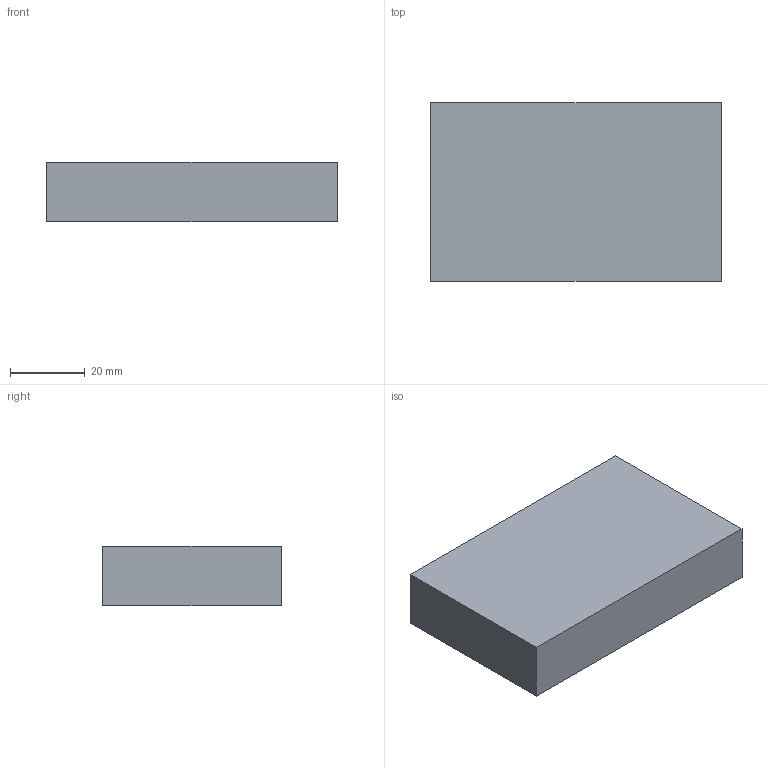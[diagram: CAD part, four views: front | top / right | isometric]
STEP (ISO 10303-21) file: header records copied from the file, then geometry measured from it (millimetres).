
FILE_DESCRIPTION(('Reference STEP solid generated for enclosure CAD implementation'),'2;1');
FILE_NAME('airgap8mb_cartridge_assembly_envelope.step','2026-07-29T17:00:00Z',('Daxini'),('Daxini'),'airgap8mb-cadgen','airgap8mb-cadgen','');
FILE_SCHEMA(('AUTOMOTIVE_DESIGN_CC2'));
Length unit declared in the file: millimetre
Products named in the file (1): airgap8mb_cartridge_assembly_envelope
Bounding box: 78 x 48 x 16 mm (x, y, z)
Surface area: 11520 mm2 (no closed solid volume)
Topology: 0 solids, 6 shells, 6 faces, 24 edges, 8 vertices
Faces by surface type: plane 6
Entity records: 221 total; most frequent: CARTESIAN_POINT 38, DIRECTION 36, VECTOR 24, LINE 24, EDGE_CURVE 24, ORIENTED_EDGE 24, VERTEX_POINT 8, EDGE_LOOP 6
